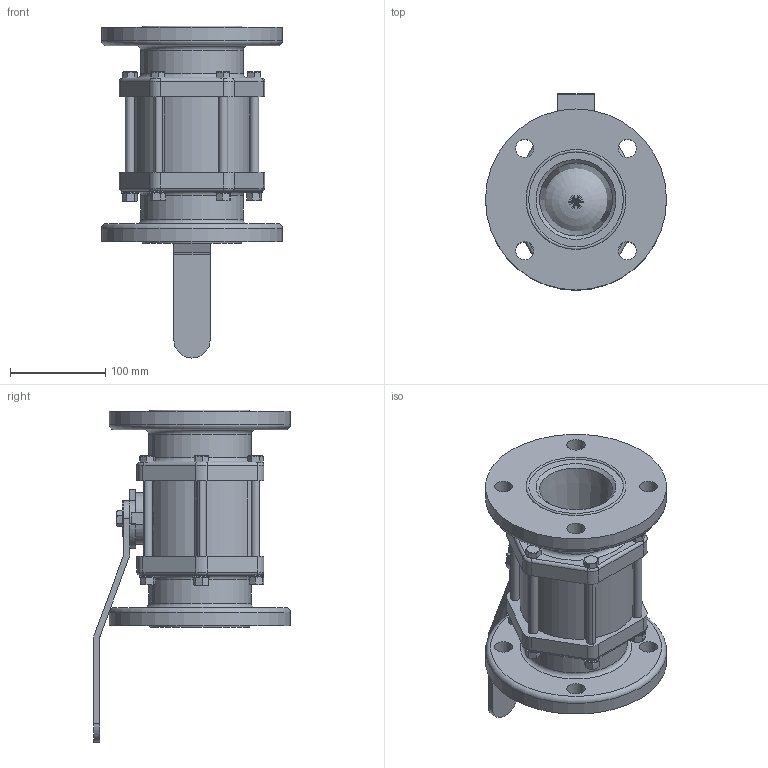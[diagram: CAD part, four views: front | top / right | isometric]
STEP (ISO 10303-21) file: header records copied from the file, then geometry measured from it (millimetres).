
FILE_DESCRIPTION(/* description */ ('Alibre Inc.'),/* implementation_level */ '2;1');
FILE_NAME(/* name */ 'export0',/* time_stamp */ '2017-10-09T14:19:33-04:00',/* author */ (''),/* organization */ (''),/* preprocessor_version */ 'ST-DEVELOPER v14',/* originating_system */ 'Alibre',/* authorisation */ '');
FILE_SCHEMA (('CONFIG_CONTROL_DESIGN'));
Length unit declared in the file: inch
Products named in the file (14): ID_1; ID_2; ID_3; ID_4; ID_5; ID_6; ID_7; ID_8; ID_9; ID_10; ID_11; ID_12; ID_13; ID_14
Bounding box: 190.5 x 207.01 x 349.25 mm (x, y, z)
Volume: 2444133.4 mm3; surface area: 561117.9 mm2
Topology: 31 solids, 31 shells, 1450 faces, 3782 edges, 2414 vertices
Faces by surface type: cylinder 547, plane 365, bspline 318, cone 194, torus 25, sphere 1
Full cylindrical faces by diameter (mm): 7.798 x1, 9.906 x12, 10.414 x1, 19.05 x8, 25.4 x3, 31.496 x3, 35.814 x1, 36.322 x2, 36.576 x2, 38.1 x1, 59.944 x1, 63.5 x2, 100.838 x2, 102.108 x1, 107.95 x2, 109.22 x2, 113.792 x2, 190.5 x2
Entity records: 21473 total; most frequent: CARTESIAN_POINT 11099, ORIENTED_EDGE 1918, DIRECTION 1438, EDGE_CURVE 959, VERTEX_POINT 641, AXIS2_PLACEMENT_3D 598, FACE_BOUND 496, EDGE_LOOP 495
